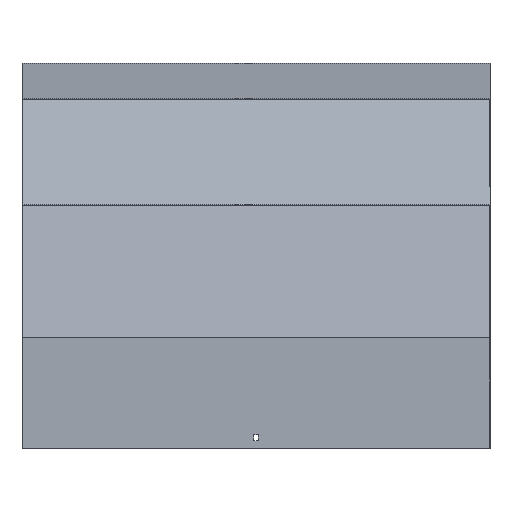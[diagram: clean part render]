
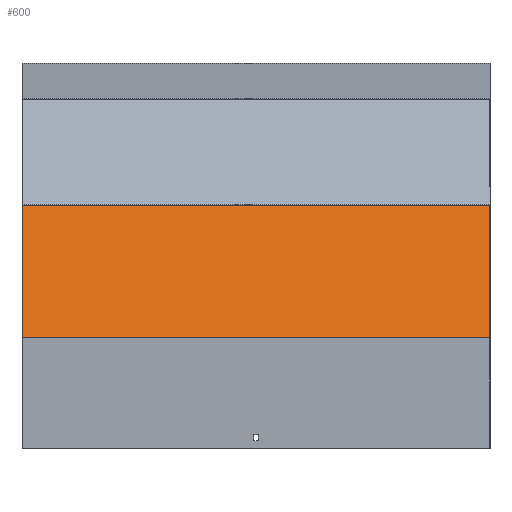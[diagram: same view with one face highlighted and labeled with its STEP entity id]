
A CAD part, top view. The second image highlights one B-rep face of the part: STEP entity #600.
In plain terms, the highlighted planar face has unit normal (0, 0.259, 0.966).
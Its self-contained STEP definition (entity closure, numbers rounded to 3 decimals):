
#127 = VECTOR ( 'NONE', #328, 1000. ) ;
#152 = EDGE_CURVE ( 'NONE', #682, #882, #873, .T. ) ;
#187 = CARTESIAN_POINT ( 'NONE',  ( 351.5, -197.649, 526.859 ) ) ;
#188 = DIRECTION ( 'NONE',  ( 0., -0.966, 0.259 ) ) ;
#221 = FACE_OUTER_BOUND ( 'NONE', #718, .T. ) ;
#263 = VERTEX_POINT ( 'NONE', #755 ) ;
#267 = LINE ( 'NONE', #187, #706 ) ;
#328 = DIRECTION ( 'NONE',  ( -1., 0., 0. ) ) ;
#353 = AXIS2_PLACEMENT_3D ( 'NONE', #970, #885, #379 ) ;
#366 = VECTOR ( 'NONE', #796, 1000. ) ;
#379 = DIRECTION ( 'NONE',  ( 0., 0.966, -0.259 ) ) ;
#409 = EDGE_CURVE ( 'NONE', #882, #489, #786, .T. ) ;
#431 = CARTESIAN_POINT ( 'NONE',  ( -351.5, -192.473, 525.472 ) ) ;
#439 = CARTESIAN_POINT ( 'NONE',  ( 351.5, -192.473, 525.472 ) ) ;
#482 = CARTESIAN_POINT ( 'NONE',  ( 351.5, -392.412, 579.045 ) ) ;
#489 = VERTEX_POINT ( 'NONE', #613 ) ;
#531 = CARTESIAN_POINT ( 'NONE',  ( -351.5, -197.649, 526.859 ) ) ;
#551 = ORIENTED_EDGE ( 'NONE', *, *, #409, .T. ) ;
#591 = CARTESIAN_POINT ( 'NONE',  ( 351.5, -192.473, 525.472 ) ) ;
#598 = DIRECTION ( 'NONE',  ( 0., -0.966, 0.259 ) ) ;
#600 = ADVANCED_FACE ( 'NONE', ( #221 ), #975, .F. ) ;
#608 = VECTOR ( 'NONE', #188, 1000. ) ;
#613 = CARTESIAN_POINT ( 'NONE',  ( -351.5, -392.412, 579.045 ) ) ;
#658 = ORIENTED_EDGE ( 'NONE', *, *, #792, .F. ) ;
#682 = VERTEX_POINT ( 'NONE', #591 ) ;
#706 = VECTOR ( 'NONE', #598, 1000. ) ;
#715 = EDGE_CURVE ( 'NONE', #263, #489, #905, .T. ) ;
#718 = EDGE_LOOP ( 'NONE', ( #551, #1000, #658, #894 ) ) ;
#755 = CARTESIAN_POINT ( 'NONE',  ( 351.5, -392.412, 579.045 ) ) ;
#786 = LINE ( 'NONE', #531, #608 ) ;
#792 = EDGE_CURVE ( 'NONE', #682, #263, #267, .T. ) ;
#796 = DIRECTION ( 'NONE',  ( -1., 0., 0. ) ) ;
#873 = LINE ( 'NONE', #439, #366 ) ;
#882 = VERTEX_POINT ( 'NONE', #431 ) ;
#885 = DIRECTION ( 'NONE',  ( 0., -0.259, -0.966 ) ) ;
#894 = ORIENTED_EDGE ( 'NONE', *, *, #152, .T. ) ;
#905 = LINE ( 'NONE', #482, #127 ) ;
#970 = CARTESIAN_POINT ( 'NONE',  ( 351.5, -197.649, 526.859 ) ) ;
#975 = PLANE ( 'NONE',  #353 ) ;
#1000 = ORIENTED_EDGE ( 'NONE', *, *, #715, .F. ) ;
